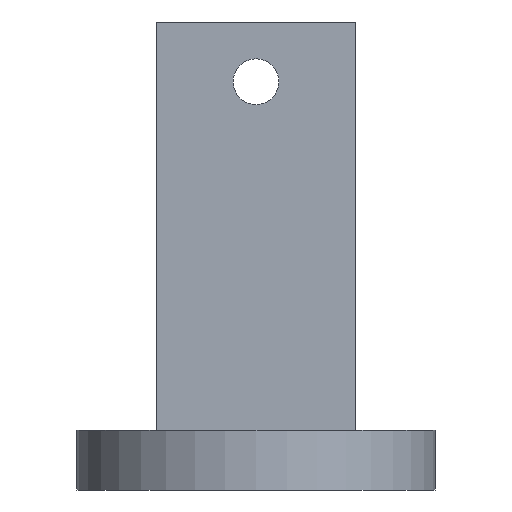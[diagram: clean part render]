
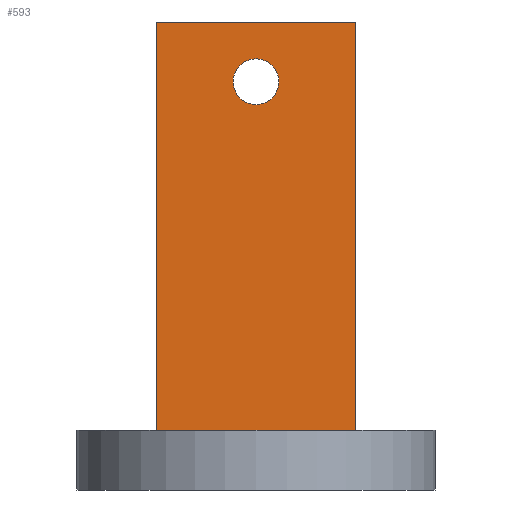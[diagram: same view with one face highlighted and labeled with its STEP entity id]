
A CAD part, front view. The second image highlights one B-rep face of the part: STEP entity #593.
In plain terms, the highlighted planar face has unit normal (0, -1, 0).
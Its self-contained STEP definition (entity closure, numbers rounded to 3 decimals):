
#66 = PLANE('',#67);
#67 = AXIS2_PLACEMENT_3D('',#68,#69,#70);
#68 = CARTESIAN_POINT('',(0.,0.,6.));
#69 = DIRECTION('',(0.,0.,1.));
#70 = DIRECTION('',(1.,0.,-0.));
#152 = VERTEX_POINT('',#153);
#153 = CARTESIAN_POINT('',(-10.,-12.,6.));
#169 = PLANE('',#170);
#170 = AXIS2_PLACEMENT_3D('',#171,#172,#173);
#171 = CARTESIAN_POINT('',(-10.,-12.,6.));
#172 = DIRECTION('',(1.,0.,0.));
#173 = DIRECTION('',(0.,0.,1.));
#210 = VERTEX_POINT('',#211);
#211 = CARTESIAN_POINT('',(10.,-12.,6.));
#225 = PLANE('',#226);
#226 = AXIS2_PLACEMENT_3D('',#227,#228,#229);
#227 = CARTESIAN_POINT('',(10.,-12.,6.));
#228 = DIRECTION('',(1.,0.,0.));
#229 = DIRECTION('',(0.,0.,1.));
#237 = EDGE_CURVE('',#152,#210,#238,.T.);
#238 = SURFACE_CURVE('',#239,(#243,#250),.PCURVE_S1.);
#239 = LINE('',#240,#241);
#240 = CARTESIAN_POINT('',(-10.,-12.,6.));
#241 = VECTOR('',#242,1.);
#242 = DIRECTION('',(1.,0.,0.));
#243 = PCURVE('',#66,#244);
#244 = DEFINITIONAL_REPRESENTATION('',(#245),#249);
#245 = LINE('',#246,#247);
#246 = CARTESIAN_POINT('',(-10.,-12.));
#247 = VECTOR('',#248,1.);
#248 = DIRECTION('',(1.,0.));
#249 = ( GEOMETRIC_REPRESENTATION_CONTEXT(2) 
PARAMETRIC_REPRESENTATION_CONTEXT() REPRESENTATION_CONTEXT('2D SPACE',''
  ) );
#250 = PCURVE('',#251,#256);
#251 = PLANE('',#252);
#252 = AXIS2_PLACEMENT_3D('',#253,#254,#255);
#253 = CARTESIAN_POINT('',(-10.,-12.,6.));
#254 = DIRECTION('',(0.,1.,0.));
#255 = DIRECTION('',(0.,0.,1.));
#256 = DEFINITIONAL_REPRESENTATION('',(#257),#261);
#257 = LINE('',#258,#259);
#258 = CARTESIAN_POINT('',(0.,0.));
#259 = VECTOR('',#260,1.);
#260 = DIRECTION('',(0.,1.));
#261 = ( GEOMETRIC_REPRESENTATION_CONTEXT(2) 
PARAMETRIC_REPRESENTATION_CONTEXT() REPRESENTATION_CONTEXT('2D SPACE',''
  ) );
#437 = EDGE_CURVE('',#152,#438,#440,.T.);
#438 = VERTEX_POINT('',#439);
#439 = CARTESIAN_POINT('',(-10.,-12.,47.));
#440 = SURFACE_CURVE('',#441,(#445,#452),.PCURVE_S1.);
#441 = LINE('',#442,#443);
#442 = CARTESIAN_POINT('',(-10.,-12.,6.));
#443 = VECTOR('',#444,1.);
#444 = DIRECTION('',(0.,0.,1.));
#445 = PCURVE('',#169,#446);
#446 = DEFINITIONAL_REPRESENTATION('',(#447),#451);
#447 = LINE('',#448,#449);
#448 = CARTESIAN_POINT('',(0.,0.));
#449 = VECTOR('',#450,1.);
#450 = DIRECTION('',(1.,0.));
#451 = ( GEOMETRIC_REPRESENTATION_CONTEXT(2) 
PARAMETRIC_REPRESENTATION_CONTEXT() REPRESENTATION_CONTEXT('2D SPACE',''
  ) );
#452 = PCURVE('',#251,#453);
#453 = DEFINITIONAL_REPRESENTATION('',(#454),#458);
#454 = LINE('',#455,#456);
#455 = CARTESIAN_POINT('',(0.,0.));
#456 = VECTOR('',#457,1.);
#457 = DIRECTION('',(1.,0.));
#458 = ( GEOMETRIC_REPRESENTATION_CONTEXT(2) 
PARAMETRIC_REPRESENTATION_CONTEXT() REPRESENTATION_CONTEXT('2D SPACE',''
  ) );
#498 = PLANE('',#499);
#499 = AXIS2_PLACEMENT_3D('',#500,#501,#502);
#500 = CARTESIAN_POINT('',(-10.,-12.,47.));
#501 = DIRECTION('',(0.,0.,1.));
#502 = DIRECTION('',(1.,0.,0.));
#582 = CYLINDRICAL_SURFACE('',#583,2.3);
#583 = AXIS2_PLACEMENT_3D('',#584,#585,#586);
#584 = CARTESIAN_POINT('',(0.,-17.,41.));
#585 = DIRECTION('',(-0.,-1.,0.));
#586 = DIRECTION('',(1.,0.,0.));
#593 = ADVANCED_FACE('',(#594,#642),#251,.F.);
#594 = FACE_BOUND('',#595,.F.);
#595 = EDGE_LOOP('',(#596,#597,#598,#621));
#596 = ORIENTED_EDGE('',*,*,#237,.F.);
#597 = ORIENTED_EDGE('',*,*,#437,.T.);
#598 = ORIENTED_EDGE('',*,*,#599,.T.);
#599 = EDGE_CURVE('',#438,#600,#602,.T.);
#600 = VERTEX_POINT('',#601);
#601 = CARTESIAN_POINT('',(10.,-12.,47.));
#602 = SURFACE_CURVE('',#603,(#607,#614),.PCURVE_S1.);
#603 = LINE('',#604,#605);
#604 = CARTESIAN_POINT('',(-10.,-12.,47.));
#605 = VECTOR('',#606,1.);
#606 = DIRECTION('',(1.,0.,0.));
#607 = PCURVE('',#251,#608);
#608 = DEFINITIONAL_REPRESENTATION('',(#609),#613);
#609 = LINE('',#610,#611);
#610 = CARTESIAN_POINT('',(41.,0.));
#611 = VECTOR('',#612,1.);
#612 = DIRECTION('',(0.,1.));
#613 = ( GEOMETRIC_REPRESENTATION_CONTEXT(2) 
PARAMETRIC_REPRESENTATION_CONTEXT() REPRESENTATION_CONTEXT('2D SPACE',''
  ) );
#614 = PCURVE('',#498,#615);
#615 = DEFINITIONAL_REPRESENTATION('',(#616),#620);
#616 = LINE('',#617,#618);
#617 = CARTESIAN_POINT('',(0.,0.));
#618 = VECTOR('',#619,1.);
#619 = DIRECTION('',(1.,0.));
#620 = ( GEOMETRIC_REPRESENTATION_CONTEXT(2) 
PARAMETRIC_REPRESENTATION_CONTEXT() REPRESENTATION_CONTEXT('2D SPACE',''
  ) );
#621 = ORIENTED_EDGE('',*,*,#622,.F.);
#622 = EDGE_CURVE('',#210,#600,#623,.T.);
#623 = SURFACE_CURVE('',#624,(#628,#635),.PCURVE_S1.);
#624 = LINE('',#625,#626);
#625 = CARTESIAN_POINT('',(10.,-12.,6.));
#626 = VECTOR('',#627,1.);
#627 = DIRECTION('',(0.,0.,1.));
#628 = PCURVE('',#251,#629);
#629 = DEFINITIONAL_REPRESENTATION('',(#630),#634);
#630 = LINE('',#631,#632);
#631 = CARTESIAN_POINT('',(0.,20.));
#632 = VECTOR('',#633,1.);
#633 = DIRECTION('',(1.,0.));
#634 = ( GEOMETRIC_REPRESENTATION_CONTEXT(2) 
PARAMETRIC_REPRESENTATION_CONTEXT() REPRESENTATION_CONTEXT('2D SPACE',''
  ) );
#635 = PCURVE('',#225,#636);
#636 = DEFINITIONAL_REPRESENTATION('',(#637),#641);
#637 = LINE('',#638,#639);
#638 = CARTESIAN_POINT('',(0.,0.));
#639 = VECTOR('',#640,1.);
#640 = DIRECTION('',(1.,0.));
#641 = ( GEOMETRIC_REPRESENTATION_CONTEXT(2) 
PARAMETRIC_REPRESENTATION_CONTEXT() REPRESENTATION_CONTEXT('2D SPACE',''
  ) );
#642 = FACE_BOUND('',#643,.F.);
#643 = EDGE_LOOP('',(#644));
#644 = ORIENTED_EDGE('',*,*,#645,.T.);
#645 = EDGE_CURVE('',#646,#646,#648,.T.);
#646 = VERTEX_POINT('',#647);
#647 = CARTESIAN_POINT('',(2.3,-12.,41.));
#648 = SURFACE_CURVE('',#649,(#654,#665),.PCURVE_S1.);
#649 = CIRCLE('',#650,2.3);
#650 = AXIS2_PLACEMENT_3D('',#651,#652,#653);
#651 = CARTESIAN_POINT('',(0.,-12.,41.));
#652 = DIRECTION('',(0.,-1.,0.));
#653 = DIRECTION('',(1.,-0.,0.));
#654 = PCURVE('',#251,#655);
#655 = DEFINITIONAL_REPRESENTATION('',(#656),#664);
#656 = ( BOUNDED_CURVE() B_SPLINE_CURVE(2,(#657,#658,#659,#660,#661,#662
,#663),.UNSPECIFIED.,.T.,.F.) B_SPLINE_CURVE_WITH_KNOTS((1,2,2,2,2,1),(
    -2.094,0.,2.094,4.189,6.283,
8.378),.UNSPECIFIED.) CURVE() GEOMETRIC_REPRESENTATION_ITEM() 
RATIONAL_B_SPLINE_CURVE((1.,0.5,1.,0.5,1.,0.5,1.)) REPRESENTATION_ITEM(
  '') );
#657 = CARTESIAN_POINT('',(35.,12.3));
#658 = CARTESIAN_POINT('',(38.984,12.3));
#659 = CARTESIAN_POINT('',(36.992,8.85));
#660 = CARTESIAN_POINT('',(35.,5.4));
#661 = CARTESIAN_POINT('',(33.008,8.85));
#662 = CARTESIAN_POINT('',(31.016,12.3));
#663 = CARTESIAN_POINT('',(35.,12.3));
#664 = ( GEOMETRIC_REPRESENTATION_CONTEXT(2) 
PARAMETRIC_REPRESENTATION_CONTEXT() REPRESENTATION_CONTEXT('2D SPACE',''
  ) );
#665 = PCURVE('',#582,#666);
#666 = DEFINITIONAL_REPRESENTATION('',(#667),#671);
#667 = LINE('',#668,#669);
#668 = CARTESIAN_POINT('',(-6.283,-5.));
#669 = VECTOR('',#670,1.);
#670 = DIRECTION('',(1.,-0.));
#671 = ( GEOMETRIC_REPRESENTATION_CONTEXT(2) 
PARAMETRIC_REPRESENTATION_CONTEXT() REPRESENTATION_CONTEXT('2D SPACE',''
  ) );
